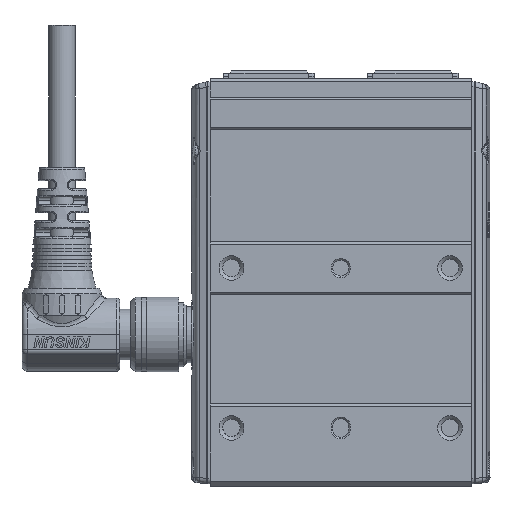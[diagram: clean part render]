
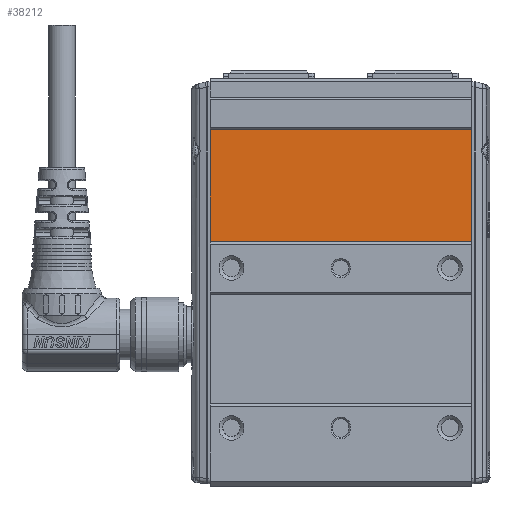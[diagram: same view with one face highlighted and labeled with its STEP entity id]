
A CAD part, front view. The second image highlights one B-rep face of the part: STEP entity #38212.
In plain terms, the highlighted planar face has unit normal (0, -1, 0).
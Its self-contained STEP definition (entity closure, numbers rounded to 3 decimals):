
#6729=FACE_OUTER_BOUND('',#8882,.T.);
#8882=EDGE_LOOP('',(#27584,#27585,#27586,#27587));
#11073=LINE('',#57589,#13738);
#11083=LINE('',#57638,#13748);
#11232=LINE('',#58304,#13897);
#11241=LINE('',#58321,#13906);
#13738=VECTOR('',#45767,10.);
#13748=VECTOR('',#45807,10.);
#13897=VECTOR('',#46468,10.);
#13906=VECTOR('',#46493,10.);
#16619=VERTEX_POINT('',#57586);
#16620=VERTEX_POINT('',#57588);
#16643=VERTEX_POINT('',#57635);
#16644=VERTEX_POINT('',#57637);
#20582=EDGE_CURVE('',#16619,#16620,#11073,.T.);
#20606=EDGE_CURVE('',#16643,#16644,#11083,.T.);
#20909=EDGE_CURVE('',#16643,#16620,#11232,.T.);
#20918=EDGE_CURVE('',#16619,#16644,#11241,.T.);
#27584=ORIENTED_EDGE('',*,*,#20918,.T.);
#27585=ORIENTED_EDGE('',*,*,#20606,.F.);
#27586=ORIENTED_EDGE('',*,*,#20909,.T.);
#27587=ORIENTED_EDGE('',*,*,#20582,.F.);
#36947=PLANE('',#40938);
#38212=ADVANCED_FACE('',(#6729),#36947,.T.);
#40938=AXIS2_PLACEMENT_3D('',#58330,#46508,#46509);
#45767=DIRECTION('',(0.,0.,1.));
#45807=DIRECTION('',(0.,0.,-1.));
#46468=DIRECTION('',(-1.,0.,0.));
#46493=DIRECTION('',(1.,0.,0.));
#46508=DIRECTION('center_axis',(0.,-1.,0.));
#46509=DIRECTION('ref_axis',(0.,0.,
-1.));
#57586=CARTESIAN_POINT('',(-24.5,-13.5,46.));
#57588=CARTESIAN_POINT('',(-24.5,-13.5,67.));
#57589=CARTESIAN_POINT('',(-24.5,-13.5,76.5));
#57635=CARTESIAN_POINT('',(24.5,-13.5,67.));
#57637=CARTESIAN_POINT('',(24.5,-13.5,46.));
#57638=CARTESIAN_POINT('',(24.5,-13.5,76.5));
#58304=CARTESIAN_POINT('',(0.,-13.5,67.));
#58321=CARTESIAN_POINT('',(0.,-13.5,46.));
#58330=CARTESIAN_POINT('Origin',(0.,-13.5,76.5));
